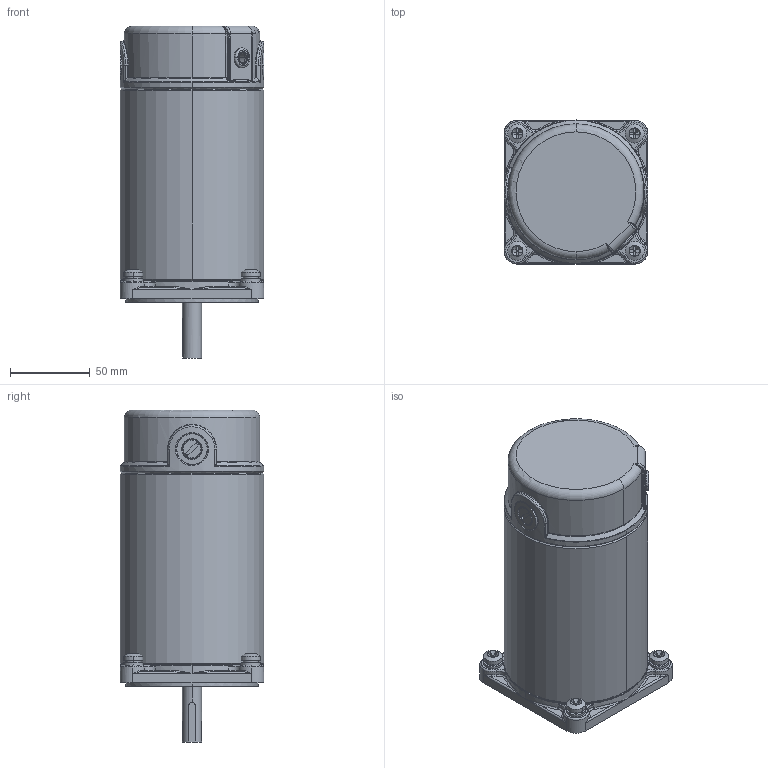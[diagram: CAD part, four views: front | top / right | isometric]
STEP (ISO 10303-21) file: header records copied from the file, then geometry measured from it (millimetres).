
FILE_DESCRIPTION (( 'STEP AP203' ), '1' );
FILE_NAME ('俋噤90嫖萇儂120儂褲.STEP', '2021-07-13T02:50:09', ( '' ), ( '' ), 'SwSTEP 2.0', 'SolidWorks 2021', '' );
FILE_SCHEMA (( 'CONFIG_CONTROL_DESIGN' ));
Length unit declared in the file: millimetre
Products named in the file (8): PRT0001_1; Z55D-300W-L_1; T_1; P_1; PRT0003_2_1; L_1; PRT0002_4; 俋噤90嫖萇儂120儂褲
Assembly tree (20 placements, depth 3):
  俋噤90嫖萇儂120儂褲
    Z55D-300W-L_1
      L_1  x6
      P_1  x4
      PRT0001_1
      T_1  x6
      PRT0003_2_1
      PRT0002_4
Bounding box: 90 x 90 x 208 mm (x, y, z)
Volume: 269386.5 mm3; surface area: 134875.6 mm2
Topology: 22 solids, 22 shells, 757 faces, 1775 edges, 1081 vertices
Faces by surface type: cylinder 251, cone 177, plane 165, bspline 86, torus 75, sphere 3
Entity records: 26434 total; most frequent: CARTESIAN_POINT 15241, ORIENTED_EDGE 2230, DIRECTION 1849, EDGE_CURVE 1115, AXIS2_PLACEMENT_3D 772, VERTEX_POINT 678, EDGE_LOOP 519, FACE_OUTER_BOUND 475
